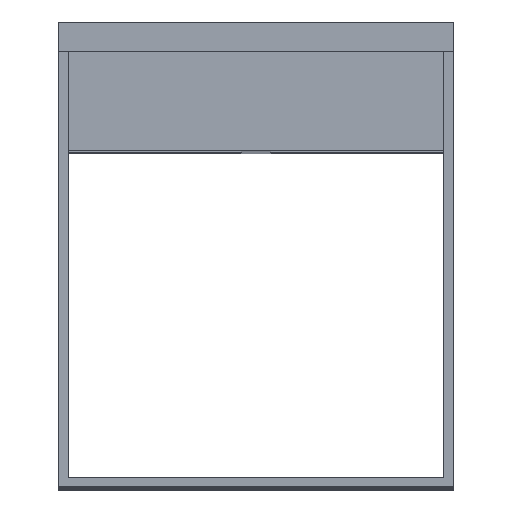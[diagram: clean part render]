
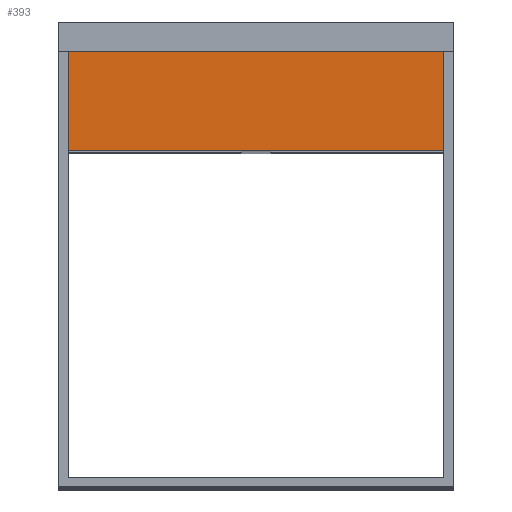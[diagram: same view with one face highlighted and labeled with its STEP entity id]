
A CAD part, top view. The second image highlights one B-rep face of the part: STEP entity #393.
In plain terms, the highlighted planar face has unit normal (0, 0, 1).
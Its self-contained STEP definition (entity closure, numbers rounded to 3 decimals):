
#34 = ORIENTED_EDGE ( 'NONE', *, *, #80, .F. ) ;
#71 = LINE ( 'NONE', #2435, #1830 ) ;
#80 = EDGE_CURVE ( 'NONE', #123, #1115, #71, .T. ) ;
#83 = PLANE ( 'NONE',  #2036 ) ;
#108 = ORIENTED_EDGE ( 'NONE', *, *, #1806, .T. ) ;
#123 = VERTEX_POINT ( 'NONE', #1783 ) ;
#278 = EDGE_CURVE ( 'NONE', #1115, #1157, #716, .T. ) ;
#393 = ADVANCED_FACE ( 'NONE', ( #1081 ), #83, .T. ) ;
#523 = CARTESIAN_POINT ( 'NONE',  ( -190., 105., 1765. ) ) ;
#607 = EDGE_CURVE ( 'NONE', #123, #1588, #720, .T. ) ;
#639 = LINE ( 'NONE', #2457, #2418 ) ;
#700 = DIRECTION ( 'NONE',  ( 1., 0., 0. ) ) ;
#716 = LINE ( 'NONE', #2275, #2409 ) ;
#720 = LINE ( 'NONE', #523, #2199 ) ;
#912 = DIRECTION ( 'NONE',  ( 1., 0., 0. ) ) ;
#1081 = FACE_OUTER_BOUND ( 'NONE', #1398, .T. ) ;
#1115 = VERTEX_POINT ( 'NONE', #1406 ) ;
#1157 = VERTEX_POINT ( 'NONE', #2169 ) ;
#1216 = CARTESIAN_POINT ( 'NONE',  ( 190., 105., 1765. ) ) ;
#1398 = EDGE_LOOP ( 'NONE', ( #2476, #34, #2252, #108 ) ) ;
#1406 = CARTESIAN_POINT ( 'NONE',  ( -190., 205., 1765. ) ) ;
#1447 = DIRECTION ( 'NONE',  ( 0., 1., 0. ) ) ;
#1588 = VERTEX_POINT ( 'NONE', #1216 ) ;
#1783 = CARTESIAN_POINT ( 'NONE',  ( -190., 105., 1765. ) ) ;
#1806 = EDGE_CURVE ( 'NONE', #1588, #1157, #639, .T. ) ;
#1830 = VECTOR ( 'NONE', #1447, 1000. ) ;
#1874 = CARTESIAN_POINT ( 'NONE',  ( -190., 105., 1765. ) ) ;
#2036 = AXIS2_PLACEMENT_3D ( 'NONE', #1874, #2056, #700 ) ;
#2056 = DIRECTION ( 'NONE',  ( 0., 0., 1. ) ) ;
#2169 = CARTESIAN_POINT ( 'NONE',  ( 190., 205., 1765. ) ) ;
#2195 = DIRECTION ( 'NONE',  ( 0., 1., 0. ) ) ;
#2199 = VECTOR ( 'NONE', #2459, 1000. ) ;
#2252 = ORIENTED_EDGE ( 'NONE', *, *, #607, .T. ) ;
#2275 = CARTESIAN_POINT ( 'NONE',  ( -190., 205., 1765. ) ) ;
#2409 = VECTOR ( 'NONE', #912, 1000. ) ;
#2418 = VECTOR ( 'NONE', #2195, 1000. ) ;
#2435 = CARTESIAN_POINT ( 'NONE',  ( -190., 105., 1765. ) ) ;
#2457 = CARTESIAN_POINT ( 'NONE',  ( 190., 105., 1765. ) ) ;
#2459 = DIRECTION ( 'NONE',  ( 1., 0., 0. ) ) ;
#2476 = ORIENTED_EDGE ( 'NONE', *, *, #278, .F. ) ;
